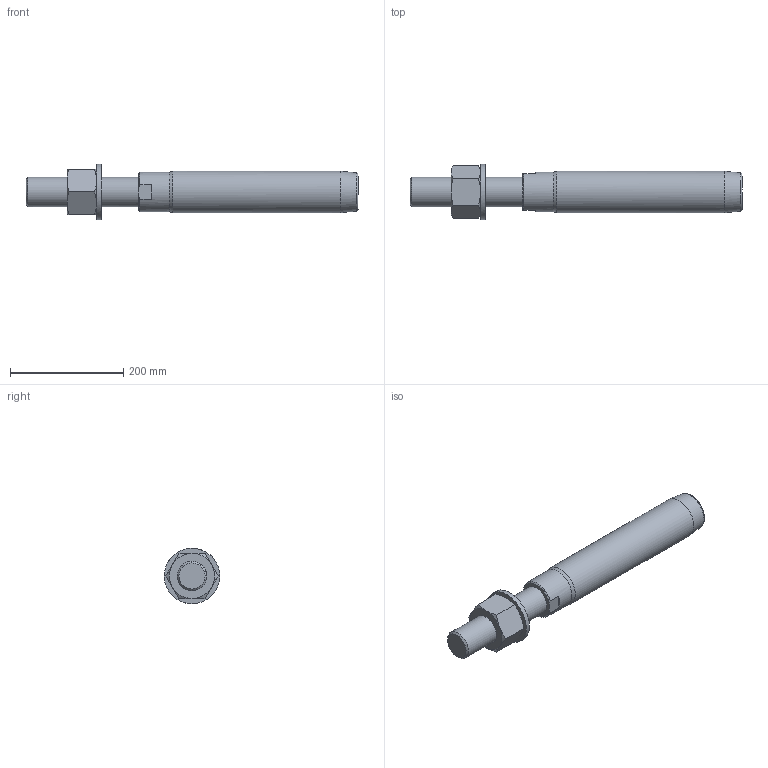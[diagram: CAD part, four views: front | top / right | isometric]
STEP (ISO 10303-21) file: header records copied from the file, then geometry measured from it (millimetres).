
FILE_DESCRIPTION(/* description */ (''),/* implementation_level */ '2;1');
FILE_NAME(/* name */ 'FLT 36_1,4462',/* time_stamp */ '2023-05-23T15:58:08+02:00',/* author */ (''),/* organization */ (''),/* preprocessor_version */ 'ST-DEVELOPER v16.5',/* originating_system */ 'Rhino 7.22',/* authorisation */ '');
FILE_SCHEMA (('CONFIG_CONTROL_DESIGN'));
Length unit declared in the file: millimetre
Products named in the file (1): Document
Bounding box: 587 x 97.98 x 97.98 mm (x, y, z)
Volume: 2262790.2 mm3; surface area: 171216.9 mm2
Topology: 3 solids, 3 shells, 43 faces, 104 edges, 68 vertices
Faces by surface type: bspline 20, plane 17, cylinder 6
Full cylindrical faces by diameter (mm): 48.752 x1, 52 x1, 54 x1, 70 x1, 73.5 x1, 98 x1
Entity records: 1590 total; most frequent: CARTESIAN_POINT 881, ORIENTED_EDGE 208, EDGE_CURVE 104, VERTEX_POINT 68, EDGE_LOOP 48, ADVANCED_FACE 43, FACE_OUTER_BOUND 43, DIRECTION 27
